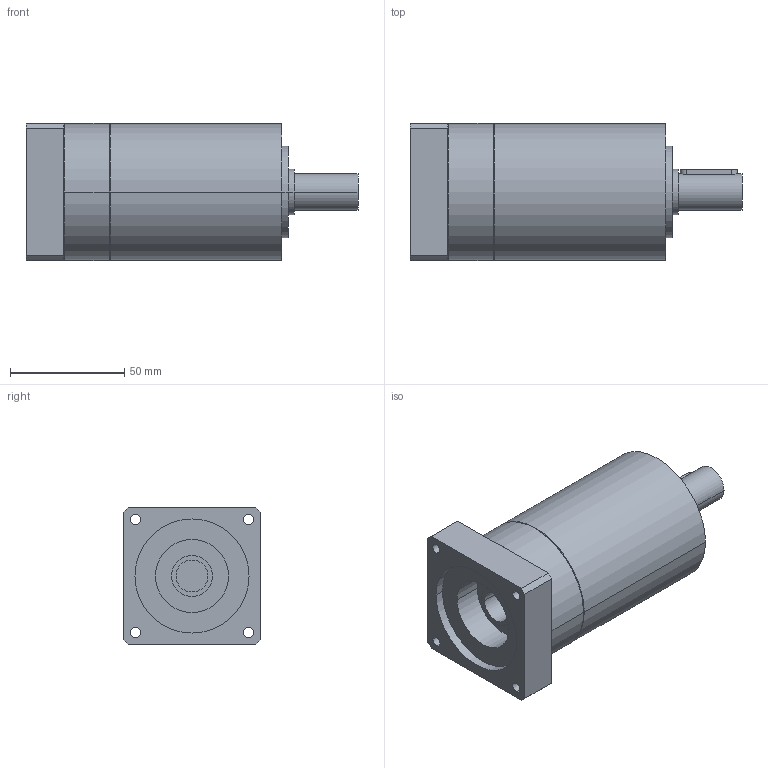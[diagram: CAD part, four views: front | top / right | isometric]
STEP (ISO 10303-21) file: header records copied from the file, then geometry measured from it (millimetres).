
FILE_DESCRIPTION(('CoCreate Modeling STEP Export'),'2;1');
FILE_NAME('GPR75_ig-9-12-16-20-24-30-36_16_B14_14_P17.stp','2014-08-25T16:45:19',(''),(''),'CoCreate Modeling STEP processor for AP214 (Solid Model)','CoCreate Modeling 16.00C 25-Feb-2009 (C) Parametric Technology GmbH','');
FILE_SCHEMA(('AUTOMOTIVE_DESIGN { 1 0 10303 214 1 1 1 1 }'));
Length unit declared in the file: millimetre
Products named in the file (2): GPR75_ig-9-12-16-20-24-30-36_16_B14_14_P17
Assembly tree (1 placements, depth 2):
  GPR75_ig-9-12-16-20-24-30-36_16_B14_14_P17
    GPR75_ig-9-12-16-20-24-30-36_16_B14_14_P17
Bounding box: 145.4 x 60 x 60 mm (x, y, z)
Volume: 316253.7 mm3; surface area: 36276 mm2
Topology: 1 solids, 1 shells, 70 faces, 188 edges, 132 vertices
Faces by surface type: cylinder 42, plane 22, cone 6
Entity records: 1939 total; most frequent: ORIENTED_EDGE 372, CARTESIAN_POINT 360, DIRECTION 262, EDGE_CURVE 186, VERTEX_POINT 132, AXIS2_PLACEMENT_3D 98, EDGE_LOOP 92, FACE_OUTER_BOUND 70
